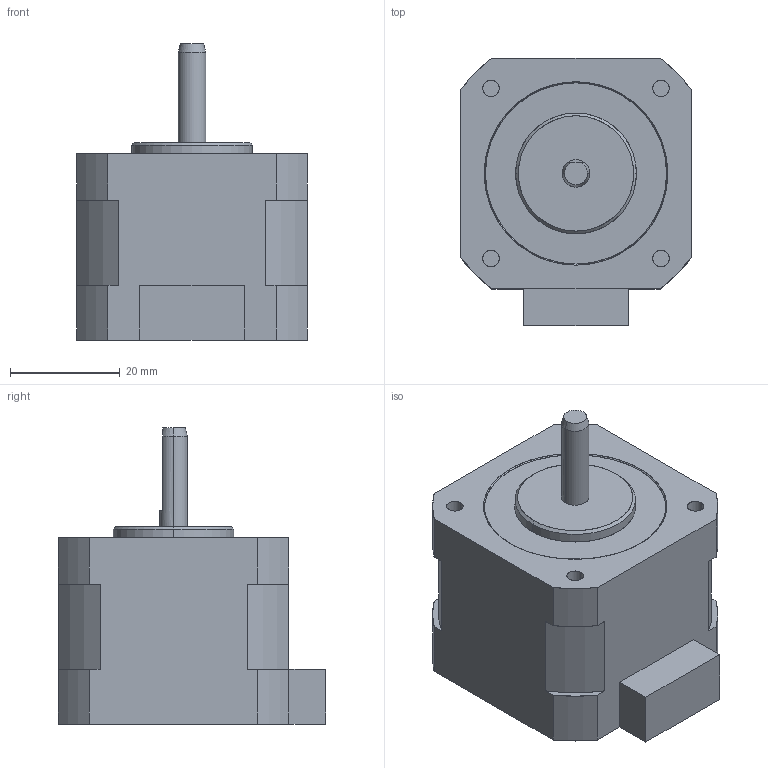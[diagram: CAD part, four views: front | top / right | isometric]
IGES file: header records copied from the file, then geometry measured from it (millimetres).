
Start section: SolidWorks IGES file using analytic representation for surfaces
Bounding box: 42 x 48.7 x 54 mm (x, y, z)
Surface area: 9664.8 mm2 (no closed solid volume)
Topology: 0 solids, 0 shells, 58 faces, 820 edges, 820 vertices
Faces by surface type: revolution 31, bspline 27
